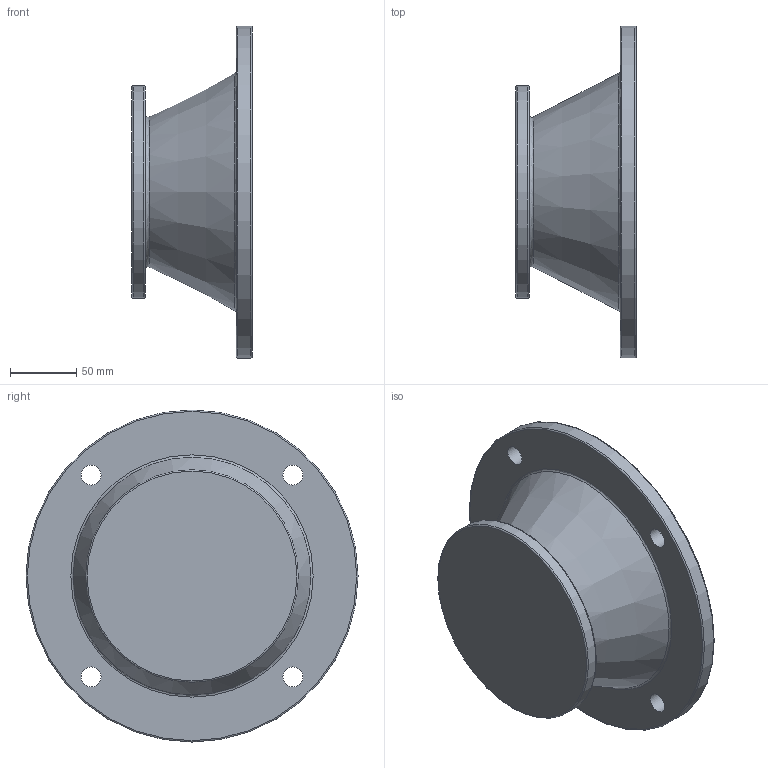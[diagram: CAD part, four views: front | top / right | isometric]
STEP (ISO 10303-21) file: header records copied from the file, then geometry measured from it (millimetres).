
FILE_DESCRIPTION((''),'2;1');
FILE_NAME('D:\PAWEŁ\ZLECENIA\2011 DualSystem\Przekładnie DR\DR60\STEP\100_112_B5_L90,5.stp','2012-06-11T12:09:11',('admin'),(''),'Autodesk Inventor 2009','Autodesk Inventor 2009','');
FILE_SCHEMA(('AUTOMOTIVE_DESIGN { 1 0 10303 214 1 1 1 1 }'));
Length unit declared in the file: millimetre
Products named in the file (1): 100_112_B5_L90,5
Bounding box: 90.5 x 250 x 250 mm (x, y, z)
Volume: 769727.6 mm3; surface area: 188059.8 mm2
Topology: 1 solids, 1 shells, 29 faces, 56 edges, 35 vertices
Faces by surface type: plane 11, bspline 6, cylinder 5, torus 5, cone 2
Full cylindrical faces by diameter (mm): 48 x1, 160 x1, 180 x1, 250 x1
Entity records: 875 total; most frequent: CARTESIAN_POINT 278, DIRECTION 116, ORIENTED_EDGE 78, EDGE_LOOP 60, AXIS2_PLACEMENT_3D 53, EDGE_CURVE 39, VERTEX_POINT 35, FACE_BOUND 31
